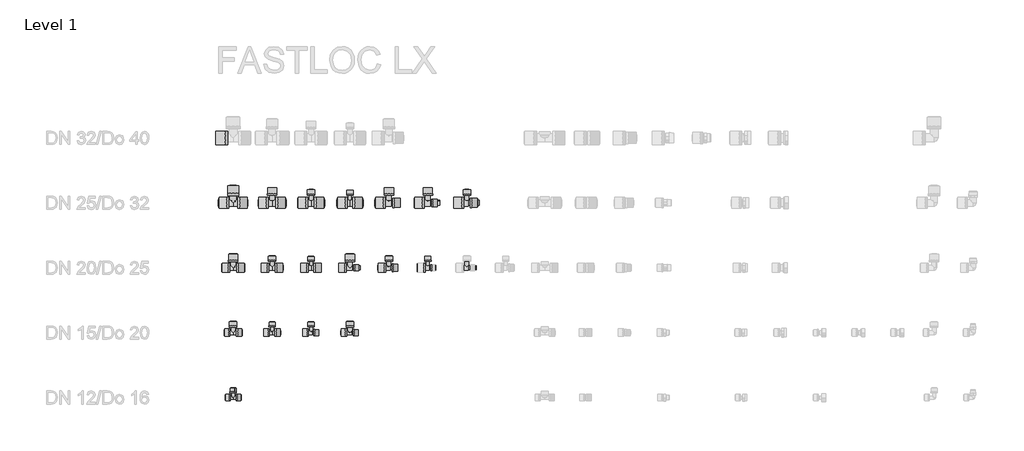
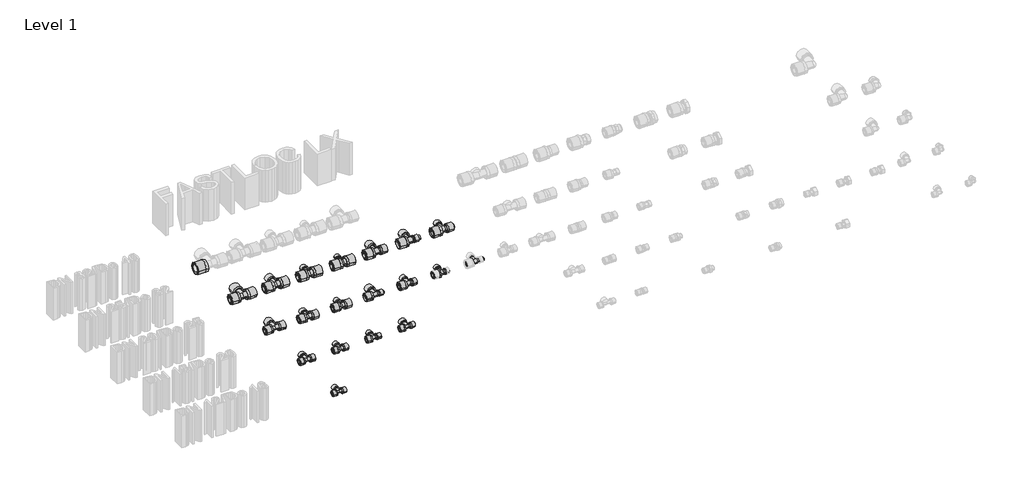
# One storey, part 1 of 4: 127 pipe fittings.
"""IFC4 building model written with IfcOpenShell, lengths in millimetres."""

from ifc_helpers import new_model, si_unit, origin, place, context, project, spatial, transform, mapped, element, save
from components import pipe_fitting_d1512616, pipe_fitting_53f43fdb, pipe_fitting_049613d0, pipe_fitting_c7c0347b, pipe_fitting_bcc3186d, pipe_fitting_b0737a23, pipe_fitting_5b3ed3f5, pipe_fitting_59d0f585, pipe_fitting_b80da8a0, pipe_fitting_4480fcef, pipe_fitting_790cff28, pipe_fitting_70687c7d, pipe_fitting_1d61267e, pipe_fitting_963efab6, pipe_fitting_73daba78, pipe_fitting_55165755, pipe_fitting_d6df5a86, pipe_fitting_67572bd9, pipe_fitting_897fe79f, pipe_fitting_291f5afb, pipe_fitting_dcf4181b, pipe_fitting_b03326a8, pipe_fitting_d24b7152, pipe_fitting_3e6fe312, sleeve_fsl_pvdf_957fc3e3, sleeve_fsl_pvdf_9ecdae78, sleeve_fsl_pvdf_b286e573, sleeve_fsl_pvdf_64652941, sleeve_fsl_pvdf_bb947688

model = new_model("IFC4")

# Units and contexts
model_context = context("Model", 3, world=origin())
ifc_project = project(units=[si_unit("LENGTHUNIT", "METRE", prefix="MILLI")], contexts=[model_context])

# Site, building, storey
site = spatial("IfcSite", under=ifc_project)
building = spatial("IfcBuilding", under=site)
storey = spatial("IfcBuildingStorey", under=building, Name="Level 1", Elevation=0.0)

# Pipe fittings
placement = place(None, origin())
pipe_fitting_shape = pipe_fitting_d1512616(model_context)
element("IfcPipeFitting", 1, ObjectType="FASTLOC_Sleeve outside : FSL S O DN1", at=placement, inside=storey, context=model_context, shape_type="MappedRepresentation", body=[
    mapped(pipe_fitting_shape, transform((0.0, 18.1, 0.0), x_axis=(0.0, 1.0, 0.0), y_axis=(-1.0, 0.0, 0.0), z_axis=(0.0, 0.0, 1.0))),
])
element("IfcPipeFitting", 2, ObjectType="FASTLOC_Sleeve outside : FSL S O DN1", at=placement, inside=storey, context=model_context, shape_type="MappedRepresentation", body=[
    mapped(pipe_fitting_shape, transform((-11.0, 0.0, 0.0), x_axis=(-1.0, 0.0, 0.0), y_axis=(0.0, -1.0, 0.0), z_axis=(0.0, 0.0, 1.0))),
])
element("IfcPipeFitting", 3, ObjectType="FASTLOC_Sleeve outside : FSL S O DN1", at=placement, inside=storey, context=model_context, shape_type="MappedRepresentation", body=[
    mapped(pipe_fitting_shape, transform((11.0, 0.0, 0.0), x_axis=(1.0, 0.0, 0.0), y_axis=(0.0, 1.0, 0.0), z_axis=(0.0, 0.0, 1.0))),
])
element("IfcPipeFitting", 4, ObjectType="FASTLOC_Sleeve outside : FSL S O DN1", at=placement, inside=storey, context=model_context, shape_type="MappedRepresentation", body=[
    mapped(pipe_fitting_shape, transform((150.0, 272.3, 0.0), x_axis=(0.0, 1.0, 0.0), y_axis=(-1.0, 0.0, 0.0), z_axis=(0.0, 0.0, 1.0))),
])
element("IfcPipeFitting", 5, ObjectType="FASTLOC_Sleeve outside : FSL S O DN1", at=placement, inside=storey, context=model_context, shape_type="MappedRepresentation", body=[
    mapped(pipe_fitting_shape, transform((300.0, 525.0, 0.0), x_axis=(0.0, 1.0, 0.0), y_axis=(-1.0, 0.0, 0.0), z_axis=(0.0, 0.0, 1.0))),
])
element("IfcPipeFitting", 6, ObjectType="FASTLOC_Sleeve outside : FSL S O DN1", at=placement, inside=storey, context=model_context, shape_type="MappedRepresentation", body=[
    mapped(pipe_fitting_shape, transform((450.0, 779.9, 0.0), x_axis=(0.0, 1.0, 0.0), y_axis=(-1.0, 0.0, 0.0), z_axis=(0.0, 0.0, 1.0))),
])
element("IfcPipeFitting", 7, ObjectType="FASTLOC_Sleeve outside : FSL S O DN1", at=placement, inside=storey, context=model_context, shape_type="MappedRepresentation", body=[
    mapped(pipe_fitting_shape, transform((463.0, 250.0, 0.0), x_axis=(1.0, 0.0, 0.0), y_axis=(0.0, 1.0, 0.0), z_axis=(0.0, 0.0, 1.0))),
])
element("IfcPipeFitting", 8, ObjectType="FASTLOC_Sleeve outside : FSL S O DN1", at=placement, inside=storey, context=model_context, shape_type="MappedRepresentation", body=[
    mapped(pipe_fitting_shape, transform((464.8, 500.0, 0.0), x_axis=(1.0, 0.0, 0.0), y_axis=(0.0, 1.0, 0.0), z_axis=(0.0, 0.0, 1.0))),
])
element("IfcPipeFitting", 9, ObjectType="FASTLOC_Sleeve outside : FSL S O DN1", at=placement, inside=storey, context=model_context, shape_type="MappedRepresentation", body=[
    mapped(pipe_fitting_shape, transform((300.0, 272.4, 0.0), x_axis=(0.0, 1.0, 0.0), y_axis=(-1.0, 0.0, 0.0), z_axis=(0.0, 0.0, 1.0))),
])
element("IfcPipeFitting", 10, ObjectType="FASTLOC_Sleeve outside : FSL S O DN1", at=placement, inside=storey, context=model_context, shape_type="MappedRepresentation", body=[
    mapped(pipe_fitting_shape, transform((311.1, 250.0, 0.0), x_axis=(1.0, 0.0, 0.0), y_axis=(0.0, 1.0, 0.0), z_axis=(0.0, 0.0, 1.0))),
])
element("IfcPipeFitting", 11, ObjectType="FASTLOC_Sleeve outside : FSL S O DN1", at=placement, inside=storey, context=model_context, shape_type="MappedRepresentation", body=[
    mapped(pipe_fitting_shape, transform((750.0, 525.1, 0.0), x_axis=(0.0, 1.0, 0.0), y_axis=(-1.0, 0.0, 0.0), z_axis=(0.0, 0.0, 1.0))),
])
element("IfcPipeFitting", 12, ObjectType="FASTLOC_Sleeve outside : FSL S O DN1", at=placement, inside=storey, context=model_context, shape_type="MappedRepresentation", body=[
    mapped(pipe_fitting_shape, transform((761.1, 500.0, 0.0), x_axis=(1.0, 0.0, 0.0), y_axis=(0.0, 1.0, 0.0), z_axis=(0.0, 0.0, 1.0))),
])
pipe_fitting_2_shape = pipe_fitting_53f43fdb(model_context)
element("IfcPipeFitting", 13, ObjectType="FASTLOC_Sleeve outside : FSL S O DN1", at=placement, inside=storey, context=model_context, shape_type="MappedRepresentation", body=[
    mapped(pipe_fitting_2_shape, transform((0.0, 271.7, 0.0), x_axis=(0.0, 1.0, 0.0), y_axis=(-1.0, 0.0, 0.0), z_axis=(0.0, 0.0, 1.0))),
])
element("IfcPipeFitting", 14, ObjectType="FASTLOC_Sleeve outside : FSL S O DN1", at=placement, inside=storey, context=model_context, shape_type="MappedRepresentation", body=[
    mapped(pipe_fitting_2_shape, transform((-12.5, 250.0, 0.0), x_axis=(-1.0, 0.0, 0.0), y_axis=(0.0, -1.0, 0.0), z_axis=(0.0, 0.0, 1.0))),
])
element("IfcPipeFitting", 15, ObjectType="FASTLOC_Sleeve outside : FSL S O DN1", at=placement, inside=storey, context=model_context, shape_type="MappedRepresentation", body=[
    mapped(pipe_fitting_2_shape, transform((12.5, 250.0, 0.0), x_axis=(1.0, 0.0, 0.0), y_axis=(0.0, 1.0, 0.0), z_axis=(0.0, 0.0, 1.0))),
])
element("IfcPipeFitting", 16, ObjectType="FASTLOC_Sleeve outside : FSL S O DN1", at=placement, inside=storey, context=model_context, shape_type="MappedRepresentation", body=[
    mapped(pipe_fitting_2_shape, transform((300.0, 779.3, 0.0), x_axis=(0.0, 1.0, 0.0), y_axis=(-1.0, 0.0, 0.0), z_axis=(0.0, 0.0, 1.0))),
])
element("IfcPipeFitting", 17, ObjectType="FASTLOC_Sleeve outside : FSL S O DN1", at=placement, inside=storey, context=model_context, shape_type="MappedRepresentation", body=[
    mapped(pipe_fitting_2_shape, transform((139.4, 250.0, 0.0), x_axis=(-1.0, 0.0, 0.0), y_axis=(0.0, -1.0, 0.0), z_axis=(0.0, 0.0, 1.0))),
])
element("IfcPipeFitting", 18, ObjectType="FASTLOC_Sleeve outside : FSL S O DN1", at=placement, inside=storey, context=model_context, shape_type="MappedRepresentation", body=[
    mapped(pipe_fitting_2_shape, transform((160.6, 250.0, 0.0), x_axis=(1.0, 0.0, 0.0), y_axis=(0.0, 1.0, 0.0), z_axis=(0.0, 0.0, 1.0))),
])
element("IfcPipeFitting", 19, ObjectType="FASTLOC_Sleeve outside : FSL S O DN1", at=placement, inside=storey, context=model_context, shape_type="MappedRepresentation", body=[
    mapped(pipe_fitting_2_shape, transform((150.0, 524.5, 0.0), x_axis=(0.0, 1.0, 0.0), y_axis=(-1.0, 0.0, 0.0), z_axis=(0.0, 0.0, 1.0))),
])
element("IfcPipeFitting", 20, ObjectType="FASTLOC_Sleeve outside : FSL S O DN1", at=placement, inside=storey, context=model_context, shape_type="MappedRepresentation", body=[
    mapped(pipe_fitting_2_shape, transform((450.0, 271.7, 0.0), x_axis=(0.0, 1.0, 0.0), y_axis=(-1.0, 0.0, 0.0), z_axis=(0.0, 0.0, 1.0))),
])
element("IfcPipeFitting", 21, ObjectType="FASTLOC_Sleeve outside : FSL S O DN1", at=placement, inside=storey, context=model_context, shape_type="MappedRepresentation", body=[
    mapped(pipe_fitting_2_shape, transform((437.3, 250.0, 0.0), x_axis=(-1.0, 0.0, 0.0), y_axis=(0.0, -1.0, 0.0), z_axis=(0.0, 0.0, 1.0))),
])
element("IfcPipeFitting", 22, ObjectType="FASTLOC_Sleeve outside : FSL S O DN1", at=placement, inside=storey, context=model_context, shape_type="MappedRepresentation", body=[
    mapped(pipe_fitting_2_shape, transform((600.0, 524.5, 0.0), x_axis=(0.0, 1.0, 0.0), y_axis=(-1.0, 0.0, 0.0), z_axis=(0.0, 0.0, 1.0))),
])
element("IfcPipeFitting", 23, ObjectType="FASTLOC_Sleeve outside : FSL S O DN1", at=placement, inside=storey, context=model_context, shape_type="MappedRepresentation", body=[
    mapped(pipe_fitting_2_shape, transform((612.7, 500.0, 0.0), x_axis=(1.0, 0.0, 0.0), y_axis=(0.0, 1.0, 0.0), z_axis=(0.0, 0.0, 1.0))),
])
element("IfcPipeFitting", 24, ObjectType="FASTLOC_Sleeve outside : FSL S O DN1", at=placement, inside=storey, context=model_context, shape_type="MappedRepresentation", body=[
    mapped(pipe_fitting_2_shape, transform((900.0, 779.3, 0.0), x_axis=(0.0, 1.0, 0.0), y_axis=(-1.0, 0.0, 0.0), z_axis=(0.0, 0.0, 1.0))),
])
element("IfcPipeFitting", 25, ObjectType="FASTLOC_Sleeve outside : FSL S O DN1", at=placement, inside=storey, context=model_context, shape_type="MappedRepresentation", body=[
    mapped(pipe_fitting_2_shape, transform((764.5, 750.0, 0.0), x_axis=(1.0, 0.0, 0.0), y_axis=(0.0, 1.0, 0.0), z_axis=(0.0, 0.0, 1.0))),
])
element("IfcPipeFitting", 26, ObjectType="FASTLOC_Sleeve outside : FSL S O DN1", at=placement, inside=storey, context=model_context, shape_type="MappedRepresentation", body=[
    mapped(pipe_fitting_2_shape, transform((289.2, 250.0, 0.0), x_axis=(-1.0, 0.0, 0.0), y_axis=(0.0, -1.0, 0.0), z_axis=(0.0, 0.0, 1.0))),
])
pipe_fitting_3_shape = pipe_fitting_049613d0(model_context)
element("IfcPipeFitting", 27, ObjectType="FASTLOC_Sleeve outside : FSL S O DN1", at=placement, inside=storey, context=model_context, shape_type="MappedRepresentation", body=[
    mapped(pipe_fitting_3_shape, transform((0.0, 523.5, 0.0), x_axis=(0.0, 1.0, 0.0), y_axis=(-1.0, 0.0, 0.0), z_axis=(0.0, 0.0, 1.0))),
])
element("IfcPipeFitting", 28, ObjectType="FASTLOC_Sleeve outside : FSL S O DN1", at=placement, inside=storey, context=model_context, shape_type="MappedRepresentation", body=[
    mapped(pipe_fitting_3_shape, transform((-13.9, 500.0, 0.0), x_axis=(-1.0, 0.0, 0.0), y_axis=(0.0, -1.0, 0.0), z_axis=(0.0, 0.0, 1.0))),
])
element("IfcPipeFitting", 29, ObjectType="FASTLOC_Sleeve outside : FSL S O DN1", at=placement, inside=storey, context=model_context, shape_type="MappedRepresentation", body=[
    mapped(pipe_fitting_3_shape, transform((13.9, 500.0, 0.0), x_axis=(1.0, 0.0, 0.0), y_axis=(0.0, 1.0, 0.0), z_axis=(0.0, 0.0, 1.0))),
])
element("IfcPipeFitting", 30, ObjectType="FASTLOC_Sleeve outside : FSL S O DN1", at=placement, inside=storey, context=model_context, shape_type="MappedRepresentation", body=[
    mapped(pipe_fitting_3_shape, transform((150.0, 778.4, 0.0), x_axis=(0.0, 1.0, 0.0), y_axis=(-1.0, 0.0, 0.0), z_axis=(0.0, 0.0, 1.0))),
])
element("IfcPipeFitting", 31, ObjectType="FASTLOC_Sleeve outside : FSL S O DN1", at=placement, inside=storey, context=model_context, shape_type="MappedRepresentation", body=[
    mapped(pipe_fitting_3_shape, transform((289.8, 500.0, 0.0), x_axis=(-1.0, 0.0, 0.0), y_axis=(0.0, -1.0, 0.0), z_axis=(0.0, 0.0, 1.0))),
])
element("IfcPipeFitting", 32, ObjectType="FASTLOC_Sleeve outside : FSL S O DN1", at=placement, inside=storey, context=model_context, shape_type="MappedRepresentation", body=[
    mapped(pipe_fitting_3_shape, transform((310.2, 500.0, 0.0), x_axis=(1.0, 0.0, 0.0), y_axis=(0.0, 1.0, 0.0), z_axis=(0.0, 0.0, 1.0))),
])
element("IfcPipeFitting", 33, ObjectType="FASTLOC_Sleeve outside : FSL S O DN1", at=placement, inside=storey, context=model_context, shape_type="MappedRepresentation", body=[
    mapped(pipe_fitting_3_shape, transform((137.9, 500.0, 0.0), x_axis=(-1.0, 0.0, 0.0), y_axis=(0.0, -1.0, 0.0), z_axis=(0.0, 0.0, 1.0))),
])
element("IfcPipeFitting", 34, ObjectType="FASTLOC_Sleeve outside : FSL S O DN1", at=placement, inside=storey, context=model_context, shape_type="MappedRepresentation", body=[
    mapped(pipe_fitting_3_shape, transform((162.1, 500.0, 0.0), x_axis=(1.0, 0.0, 0.0), y_axis=(0.0, 1.0, 0.0), z_axis=(0.0, 0.0, 1.0))),
])
element("IfcPipeFitting", 35, ObjectType="FASTLOC_Sleeve outside : FSL S O DN1", at=placement, inside=storey, context=model_context, shape_type="MappedRepresentation", body=[
    mapped(pipe_fitting_3_shape, transform((450.0, 523.5, 0.0), x_axis=(0.0, 1.0, 0.0), y_axis=(-1.0, 0.0, 0.0), z_axis=(0.0, 0.0, 1.0))),
])
element("IfcPipeFitting", 36, ObjectType="FASTLOC_Sleeve outside : FSL S O DN1", at=placement, inside=storey, context=model_context, shape_type="MappedRepresentation", body=[
    mapped(pipe_fitting_3_shape, transform((435.9, 500.0, 0.0), x_axis=(-1.0, 0.0, 0.0), y_axis=(0.0, -1.0, 0.0), z_axis=(0.0, 0.0, 1.0))),
])
element("IfcPipeFitting", 37, ObjectType="FASTLOC_Sleeve outside : FSL S O DN1", at=placement, inside=storey, context=model_context, shape_type="MappedRepresentation", body=[
    mapped(pipe_fitting_3_shape, transform((587.7, 500.0, 0.0), x_axis=(-1.0, 0.0, 0.0), y_axis=(0.0, -1.0, 0.0), z_axis=(0.0, 0.0, 1.0))),
])
element("IfcPipeFitting", 38, ObjectType="FASTLOC_Sleeve outside : FSL S O DN1", at=placement, inside=storey, context=model_context, shape_type="MappedRepresentation", body=[
    mapped(pipe_fitting_3_shape, transform((912.3, 750.0, 0.0), x_axis=(1.0, 0.0, 0.0), y_axis=(0.0, 1.0, 0.0), z_axis=(0.0, 0.0, 1.0))),
])
element("IfcPipeFitting", 39, ObjectType="FASTLOC_Sleeve outside : FSL S O DN1", at=placement, inside=storey, context=model_context, shape_type="MappedRepresentation", body=[
    mapped(pipe_fitting_3_shape, transform((750.0, 778.4, 0.0), x_axis=(0.0, 1.0, 0.0), y_axis=(-1.0, 0.0, 0.0), z_axis=(0.0, 0.0, 1.0))),
])
element("IfcPipeFitting", 40, ObjectType="FASTLOC_Sleeve outside : FSL S O DN1", at=placement, inside=storey, context=model_context, shape_type="MappedRepresentation", body=[
    mapped(pipe_fitting_3_shape, transform((600.0, 778.4, 0.0), x_axis=(0.0, 1.0, 0.0), y_axis=(-1.0, 0.0, 0.0), z_axis=(0.0, 0.0, 1.0))),
])
element("IfcPipeFitting", 41, ObjectType="FASTLOC_Sleeve outside : FSL S O DN1", at=placement, inside=storey, context=model_context, shape_type="MappedRepresentation", body=[
    mapped(pipe_fitting_3_shape, transform((614.1, 750.0, 0.0), x_axis=(1.0, 0.0, 0.0), y_axis=(0.0, 1.0, 0.0), z_axis=(0.0, 0.0, 1.0))),
])
element("IfcPipeFitting", 42, ObjectType="FASTLOC_Sleeve outside : FSL S O DN1", at=placement, inside=storey, context=model_context, shape_type="MappedRepresentation", body=[
    mapped(pipe_fitting_3_shape, transform((739.6, 500.0, 0.0), x_axis=(-1.0, 0.0, 0.0), y_axis=(0.0, -1.0, 0.0), z_axis=(0.0, 0.0, 1.0))),
])
pipe_fitting_4_shape = pipe_fitting_c7c0347b(model_context)
element("IfcPipeFitting", 43, ObjectType="FASTLOC_Sleeve outside : FSL S O DN1", at=placement, inside=storey, context=model_context, shape_type="MappedRepresentation", body=[
    mapped(pipe_fitting_4_shape, transform((0.0, 778.1, 0.0), x_axis=(0.0, 1.0, 0.0), y_axis=(-1.0, 0.0, 0.0), z_axis=(0.0, 0.0, 1.0))),
])
element("IfcPipeFitting", 44, ObjectType="FASTLOC_Sleeve outside : FSL S O DN1", at=placement, inside=storey, context=model_context, shape_type="MappedRepresentation", body=[
    mapped(pipe_fitting_4_shape, transform((-16.8, 750.0, 0.0), x_axis=(-1.0, 0.0, 0.0), y_axis=(0.0, -1.0, 0.0), z_axis=(0.0, 0.0, 1.0))),
])
element("IfcPipeFitting", 45, ObjectType="FASTLOC_Sleeve outside : FSL S O DN1", at=placement, inside=storey, context=model_context, shape_type="MappedRepresentation", body=[
    mapped(pipe_fitting_4_shape, transform((16.8, 750.0, 0.0), x_axis=(1.0, 0.0, 0.0), y_axis=(0.0, 1.0, 0.0), z_axis=(0.0, 0.0, 1.0))),
])
element("IfcPipeFitting", 46, ObjectType="FASTLOC_Sleeve outside : FSL S O DN1", at=placement, inside=storey, context=model_context, shape_type="MappedRepresentation", body=[
    mapped(pipe_fitting_4_shape, transform((287.8, 750.0, 0.0), x_axis=(-1.0, 0.0, 0.0), y_axis=(0.0, -1.0, 0.0), z_axis=(0.0, 0.0, 1.0))),
])
element("IfcPipeFitting", 47, ObjectType="FASTLOC_Sleeve outside : FSL S O DN1", at=placement, inside=storey, context=model_context, shape_type="MappedRepresentation", body=[
    mapped(pipe_fitting_4_shape, transform((312.2, 750.0, 0.0), x_axis=(1.0, 0.0, 0.0), y_axis=(0.0, 1.0, 0.0), z_axis=(0.0, 0.0, 1.0))),
])
element("IfcPipeFitting", 48, ObjectType="FASTLOC_Sleeve outside : FSL S O DN1", at=placement, inside=storey, context=model_context, shape_type="MappedRepresentation", body=[
    mapped(pipe_fitting_4_shape, transform((136.0, 750.0, 0.0), x_axis=(-1.0, 0.0, 0.0), y_axis=(0.0, -1.0, 0.0), z_axis=(0.0, 0.0, 1.0))),
])
element("IfcPipeFitting", 49, ObjectType="FASTLOC_Sleeve outside : FSL S O DN1", at=placement, inside=storey, context=model_context, shape_type="MappedRepresentation", body=[
    mapped(pipe_fitting_4_shape, transform((164.0, 750.0, 0.0), x_axis=(1.0, 0.0, 0.0), y_axis=(0.0, 1.0, 0.0), z_axis=(0.0, 0.0, 1.0))),
])
element("IfcPipeFitting", 50, ObjectType="FASTLOC_Sleeve outside : FSL S O DN1", at=placement, inside=storey, context=model_context, shape_type="MappedRepresentation", body=[
    mapped(pipe_fitting_4_shape, transform((439.7, 750.0, 0.0), x_axis=(-1.0, 0.0, 0.0), y_axis=(0.0, -1.0, 0.0), z_axis=(0.0, 0.0, 1.0))),
])
element("IfcPipeFitting", 51, ObjectType="FASTLOC_Sleeve outside : FSL S O DN1", at=placement, inside=storey, context=model_context, shape_type="MappedRepresentation", body=[
    mapped(pipe_fitting_4_shape, transform((460.3, 750.0, 0.0), x_axis=(1.0, 0.0, 0.0), y_axis=(0.0, 1.0, 0.0), z_axis=(0.0, 0.0, 1.0))),
])
element("IfcPipeFitting", 52, ObjectType="FASTLOC_Sleeve outside : FSL S O DN1", at=placement, inside=storey, context=model_context, shape_type="MappedRepresentation", body=[
    mapped(pipe_fitting_4_shape, transform((887.7, 750.0, 0.0), x_axis=(-1.0, 0.0, 0.0), y_axis=(0.0, -1.0, 0.0), z_axis=(0.0, 0.0, 1.0))),
])
element("IfcPipeFitting", 53, ObjectType="FASTLOC_Sleeve outside : FSL S O DN1", at=placement, inside=storey, context=model_context, shape_type="MappedRepresentation", body=[
    mapped(pipe_fitting_4_shape, transform((735.9, 750.0, 0.0), x_axis=(-1.0, 0.0, 0.0), y_axis=(0.0, -1.0, 0.0), z_axis=(0.0, 0.0, 1.0))),
])
element("IfcPipeFitting", 54, ObjectType="FASTLOC_Sleeve outside : FSL S O DN1", at=placement, inside=storey, context=model_context, shape_type="MappedRepresentation", body=[
    mapped(pipe_fitting_4_shape, transform((585.9, 750.0, 0.0), x_axis=(-1.0, 0.0, 0.0), y_axis=(0.0, -1.0, 0.0), z_axis=(0.0, 0.0, 1.0))),
])
pipe_fitting_5_shape = pipe_fitting_bcc3186d(model_context)
element("IfcPipeFitting", 55, ObjectType="FASTLOC_Sleeve outside : FSL S O DN1", at=placement, inside=storey, context=model_context, shape_type="MappedRepresentation", body=[
    mapped(pipe_fitting_5_shape, transform((-21.4, 1000.0, 0.0), x_axis=(-1.0, 0.0, 0.0), y_axis=(0.0, -1.0, 0.0), z_axis=(0.0, 0.0, 1.0))),
])
pipe_fitting_6_shape = pipe_fitting_b0737a23(model_context)
element("IfcPipeFitting", 56, ObjectType="FASTLOC_T-piece_LX : FSL T-Piece LX PL", at=placement, inside=storey, context=model_context, shape_type="MappedRepresentation", body=[
    mapped(pipe_fitting_6_shape, transform((0.0, 250.0, 0.0), x_axis=(1.0, 0.0, 0.0), y_axis=(0.0, 1.0, 0.0), z_axis=(0.0, 0.0, 1.0))),
])
pipe_fitting_7_shape = pipe_fitting_5b3ed3f5(model_context)
element("IfcPipeFitting", 57, ObjectType="FASTLOC_T-piece_LX : FSL T-Piece LX PL", at=placement, inside=storey, context=model_context, shape_type="MappedRepresentation", body=[
    mapped(pipe_fitting_7_shape, transform((0.0, 500.0, 0.0), x_axis=(1.0, 0.0, 0.0), y_axis=(0.0, 1.0, 0.0), z_axis=(0.0, 0.0, 1.0))),
])
pipe_fitting_8_shape = pipe_fitting_59d0f585(model_context)
element("IfcPipeFitting", 58, ObjectType="FASTLOC_T-piece_LX : FSL T-Piece LX PL", at=placement, inside=storey, context=model_context, shape_type="MappedRepresentation", body=[
    mapped(pipe_fitting_8_shape, transform((0.0, 750.0, 0.0), x_axis=(1.0, 0.0, 0.0), y_axis=(0.0, 1.0, 0.0), z_axis=(0.0, 0.0, 1.0))),
])
pipe_fitting_9_shape = pipe_fitting_b80da8a0(model_context)
element("IfcPipeFitting", 59, ObjectType="FASTLOC_T-piece_LX : FSL T-Piece LX PL", at=placement, inside=storey, context=model_context, shape_type="MappedRepresentation", body=[
    mapped(pipe_fitting_9_shape, transform((300.0, 750.0, 0.0), x_axis=(1.0, 0.0, 0.0), y_axis=(0.0, 1.0, 0.0), z_axis=(0.0, 0.0, 1.0))),
])
pipe_fitting_10_shape = pipe_fitting_4480fcef(model_context)
element("IfcPipeFitting", 60, ObjectType="FASTLOC_T-piece_LX : FSL T-Piece LX PL", at=placement, inside=storey, context=model_context, shape_type="MappedRepresentation", body=[
    mapped(pipe_fitting_10_shape, transform((150.0, 750.0, 0.0), x_axis=(1.0, 0.0, 0.0), y_axis=(0.0, 1.0, 0.0), z_axis=(0.0, 0.0, 1.0))),
])
pipe_fitting_11_shape = pipe_fitting_790cff28(model_context)
element("IfcPipeFitting", 61, ObjectType="FASTLOC_T-piece_LX : FSL T-Piece LX PL", at=placement, inside=storey, context=model_context, shape_type="MappedRepresentation", body=[
    mapped(pipe_fitting_11_shape, transform((150.0, 250.0, 0.0), x_axis=(1.0, 0.0, 0.0), y_axis=(0.0, 1.0, 0.0), z_axis=(0.0, 0.0, 1.0))),
])
pipe_fitting_12_shape = pipe_fitting_70687c7d(model_context)
element("IfcPipeFitting", 62, ObjectType="FASTLOC_T-piece_LX : FSL T-Piece LX PL", at=placement, inside=storey, context=model_context, shape_type="MappedRepresentation", body=[
    mapped(pipe_fitting_12_shape, transform((300.0, 500.0, 0.0), x_axis=(1.0, 0.0, 0.0), y_axis=(0.0, 1.0, 0.0), z_axis=(0.0, 0.0, 1.0))),
])
pipe_fitting_13_shape = pipe_fitting_1d61267e(model_context)
element("IfcPipeFitting", 63, ObjectType="FASTLOC_T-piece_LX : FSL T-Piece LX PL", at=placement, inside=storey, context=model_context, shape_type="MappedRepresentation", body=[
    mapped(pipe_fitting_13_shape, transform((150.0, 500.0, 0.0), x_axis=(1.0, 0.0, 0.0), y_axis=(0.0, 1.0, 0.0), z_axis=(0.0, 0.0, 1.0))),
])
pipe_fitting_14_shape = pipe_fitting_963efab6(model_context)
element("IfcPipeFitting", 64, ObjectType="FASTLOC_T-piece_LX : FSL T-Piece LX PL", at=placement, inside=storey, context=model_context, shape_type="MappedRepresentation", body=[
    mapped(pipe_fitting_14_shape, transform((450.0, 750.0, 0.0), x_axis=(1.0, 0.0, 0.0), y_axis=(0.0, 1.0, 0.0), z_axis=(0.0, 0.0, 1.0))),
])
pipe_fitting_15_shape = pipe_fitting_73daba78(model_context)
element("IfcPipeFitting", 65, ObjectType="FASTLOC_T-piece_LX : FSL T-Piece LX PL", at=placement, inside=storey, context=model_context, shape_type="MappedRepresentation", body=[
    mapped(pipe_fitting_15_shape, transform((450.0, 250.0, 0.0), x_axis=(1.0, 0.0, 0.0), y_axis=(0.0, 1.0, 0.0), z_axis=(0.0, 0.0, 1.0))),
])
pipe_fitting_16_shape = pipe_fitting_55165755(model_context)
element("IfcPipeFitting", 66, ObjectType="FASTLOC_T-piece_LX : FSL T-Piece LX PL", at=placement, inside=storey, context=model_context, shape_type="MappedRepresentation", body=[
    mapped(pipe_fitting_16_shape, transform((450.0, 500.0, 0.0), x_axis=(1.0, 0.0, 0.0), y_axis=(0.0, 1.0, 0.0), z_axis=(0.0, 0.0, 1.0))),
])
pipe_fitting_17_shape = pipe_fitting_d6df5a86(model_context)
element("IfcPipeFitting", 67, ObjectType="FASTLOC_T-piece_LX : FSL T-Piece LX PL", at=placement, inside=storey, context=model_context, shape_type="MappedRepresentation", body=[
    mapped(pipe_fitting_17_shape, transform((600.0, 500.0, 0.0), x_axis=(1.0, 0.0, 0.0), y_axis=(0.0, 1.0, 0.0), z_axis=(0.0, 0.0, 1.0))),
])
pipe_fitting_18_shape = pipe_fitting_67572bd9(model_context)
element("IfcPipeFitting", 68, ObjectType="FASTLOC_T-piece_LX : FSL T-Piece LX PL", at=placement, inside=storey, context=model_context, shape_type="MappedRepresentation", body=[
    mapped(pipe_fitting_18_shape, transform((900.0, 750.0, 0.0), x_axis=(1.0, 0.0, 0.0), y_axis=(0.0, 1.0, 0.0), z_axis=(0.0, 0.0, 1.0))),
])
pipe_fitting_19_shape = pipe_fitting_897fe79f(model_context)
element("IfcPipeFitting", 69, ObjectType="FASTLOC_T-piece_LX : FSL T-Piece LX PL", at=placement, inside=storey, context=model_context, shape_type="MappedRepresentation", body=[
    mapped(pipe_fitting_19_shape, transform((750.0, 750.0, 0.0), x_axis=(1.0, 0.0, 0.0), y_axis=(0.0, 1.0, 0.0), z_axis=(0.0, 0.0, 1.0))),
])
pipe_fitting_20_shape = pipe_fitting_291f5afb(model_context)
element("IfcPipeFitting", 70, ObjectType="FASTLOC_T-piece_LX : FSL T-Piece LX PL", at=placement, inside=storey, context=model_context, shape_type="MappedRepresentation", body=[
    mapped(pipe_fitting_20_shape, transform((600.0, 750.0, 0.0), x_axis=(1.0, 0.0, 0.0), y_axis=(0.0, 1.0, 0.0), z_axis=(0.0, 0.0, 1.0))),
])
pipe_fitting_21_shape = pipe_fitting_dcf4181b(model_context)
element("IfcPipeFitting", 71, ObjectType="FASTLOC_T-piece_LX : FSL T-Piece LX PL", at=placement, inside=storey, context=model_context, shape_type="MappedRepresentation", body=[
    mapped(pipe_fitting_21_shape, transform((300.0, 250.0, 0.0), x_axis=(1.0, 0.0, 0.0), y_axis=(0.0, 1.0, 0.0), z_axis=(0.0, 0.0, 1.0))),
])
pipe_fitting_22_shape = pipe_fitting_b03326a8(model_context)
element("IfcPipeFitting", 72, ObjectType="FASTLOC_T-piece_LX : FSL T-Piece LX PL", at=placement, inside=storey, context=model_context, shape_type="MappedRepresentation", body=[
    mapped(pipe_fitting_22_shape, transform((750.0, 500.0, 0.0), x_axis=(1.0, 0.0, 0.0), y_axis=(0.0, 1.0, 0.0), z_axis=(0.0, 0.0, 1.0))),
])
pipe_fitting_23_shape = pipe_fitting_d24b7152(model_context)
element("IfcPipeFitting", 73, ObjectType="FASTLOC_T-piece_LX : FSL T-Piece LX PL", at=placement, inside=storey, context=model_context, shape_type="MappedRepresentation", body=[
    mapped(pipe_fitting_23_shape, transform((900.0, 500.0, 0.0), x_axis=(1.0, 0.0, 0.0), y_axis=(0.0, 1.0, 0.0), z_axis=(0.0, 0.0, 1.0))),
])
pipe_fitting_24_shape = pipe_fitting_3e6fe312(model_context)
element("IfcPipeFitting", 74, ObjectType="FASTLOC_T-piece_LX : FSL T-Piece LX PL", at=placement, inside=storey, context=model_context, shape_type="MappedRepresentation", body=[
    mapped(pipe_fitting_24_shape, transform((0.0, 0.0, 0.0), x_axis=(1.0, 0.0, 0.0), y_axis=(0.0, 1.0, 0.0), z_axis=(0.0, 0.0, 1.0))),
])
sleeve_fsl_pvdf_shape = sleeve_fsl_pvdf_957fc3e3(model_context)
element("IfcPipeFitting", 75, ObjectType="Sleeve : FSL PVDF", at=placement, inside=storey, context=model_context, shape_type="MappedRepresentation", body=[
    mapped(sleeve_fsl_pvdf_shape, transform((0.0, 22.1, 0.0), x_axis=(0.0, 1.0, 0.0), y_axis=(-1.0, 0.0, 0.0), z_axis=(0.0, 0.0, 1.0))),
])
element("IfcPipeFitting", 76, ObjectType="Sleeve : FSL PVDF", at=placement, inside=storey, context=model_context, shape_type="MappedRepresentation", body=[
    mapped(sleeve_fsl_pvdf_shape, transform((-15.0, 0.0, 0.0), x_axis=(-1.0, 0.0, 0.0), y_axis=(0.0, -1.0, 0.0), z_axis=(0.0, 0.0, 1.0))),
])
element("IfcPipeFitting", 77, ObjectType="Sleeve : FSL PVDF", at=placement, inside=storey, context=model_context, shape_type="MappedRepresentation", body=[
    mapped(sleeve_fsl_pvdf_shape, transform((15.0, 0.0, 0.0), x_axis=(1.0, 0.0, 0.0), y_axis=(0.0, 1.0, 0.0), z_axis=(0.0, 0.0, 1.0))),
])
element("IfcPipeFitting", 78, ObjectType="Sleeve : FSL PVDF", at=placement, inside=storey, context=model_context, shape_type="MappedRepresentation", body=[
    mapped(sleeve_fsl_pvdf_shape, transform((150.0, 276.3, 0.0), x_axis=(0.0, 1.0, 0.0), y_axis=(-1.0, 0.0, 0.0), z_axis=(0.0, 0.0, 1.0))),
])
element("IfcPipeFitting", 79, ObjectType="Sleeve : FSL PVDF", at=placement, inside=storey, context=model_context, shape_type="MappedRepresentation", body=[
    mapped(sleeve_fsl_pvdf_shape, transform((300.0, 529.0, 0.0), x_axis=(0.0, 1.0, 0.0), y_axis=(-1.0, 0.0, 0.0), z_axis=(0.0, 0.0, 1.0))),
])
element("IfcPipeFitting", 80, ObjectType="Sleeve : FSL PVDF", at=placement, inside=storey, context=model_context, shape_type="MappedRepresentation", body=[
    mapped(sleeve_fsl_pvdf_shape, transform((450.0, 783.9, 0.0), x_axis=(0.0, 1.0, 0.0), y_axis=(-1.0, 0.0, 0.0), z_axis=(0.0, 0.0, 1.0))),
])
element("IfcPipeFitting", 81, ObjectType="Sleeve : FSL PVDF", at=placement, inside=storey, context=model_context, shape_type="MappedRepresentation", body=[
    mapped(sleeve_fsl_pvdf_shape, transform((467.0, 250.0, 0.0), x_axis=(1.0, 0.0, 0.0), y_axis=(0.0, 1.0, 0.0), z_axis=(0.0, 0.0, 1.0))),
])
element("IfcPipeFitting", 82, ObjectType="Sleeve : FSL PVDF", at=placement, inside=storey, context=model_context, shape_type="MappedRepresentation", body=[
    mapped(sleeve_fsl_pvdf_shape, transform((468.8, 500.0, 0.0), x_axis=(1.0, 0.0, 0.0), y_axis=(0.0, 1.0, 0.0), z_axis=(0.0, 0.0, 1.0))),
])
element("IfcPipeFitting", 83, ObjectType="Sleeve : FSL PVDF", at=placement, inside=storey, context=model_context, shape_type="MappedRepresentation", body=[
    mapped(sleeve_fsl_pvdf_shape, transform((300.0, 276.4, 0.0), x_axis=(0.0, 1.0, 0.0), y_axis=(-1.0, 0.0, 0.0), z_axis=(0.0, 0.0, 1.0))),
])
element("IfcPipeFitting", 84, ObjectType="Sleeve : FSL PVDF", at=placement, inside=storey, context=model_context, shape_type="MappedRepresentation", body=[
    mapped(sleeve_fsl_pvdf_shape, transform((315.1, 250.0, 0.0), x_axis=(1.0, 0.0, 0.0), y_axis=(0.0, 1.0, 0.0), z_axis=(0.0, 0.0, 1.0))),
])
element("IfcPipeFitting", 85, ObjectType="Sleeve : FSL PVDF", at=placement, inside=storey, context=model_context, shape_type="MappedRepresentation", body=[
    mapped(sleeve_fsl_pvdf_shape, transform((750.0, 529.1, 0.0), x_axis=(0.0, 1.0, 0.0), y_axis=(-1.0, 0.0, 0.0), z_axis=(0.0, 0.0, 1.0))),
])
sleeve_fsl_pvdf_2_shape = sleeve_fsl_pvdf_9ecdae78(model_context)
element("IfcPipeFitting", 86, ObjectType="Sleeve : FSL PVDF", at=placement, inside=storey, context=model_context, shape_type="MappedRepresentation", body=[
    mapped(sleeve_fsl_pvdf_2_shape, transform((0.0, 276.4, 0.0), x_axis=(0.0, 1.0, 0.0), y_axis=(-1.0, 0.0, 0.0), z_axis=(0.0, 0.0, 1.0))),
])
element("IfcPipeFitting", 87, ObjectType="Sleeve : FSL PVDF", at=placement, inside=storey, context=model_context, shape_type="MappedRepresentation", body=[
    mapped(sleeve_fsl_pvdf_2_shape, transform((-17.2, 250.0, 0.0), x_axis=(-1.0, 0.0, 0.0), y_axis=(0.0, -1.0, 0.0), z_axis=(0.0, 0.0, 1.0))),
])
element("IfcPipeFitting", 88, ObjectType="Sleeve : FSL PVDF", at=placement, inside=storey, context=model_context, shape_type="MappedRepresentation", body=[
    mapped(sleeve_fsl_pvdf_2_shape, transform((17.2, 250.0, 0.0), x_axis=(1.0, 0.0, 0.0), y_axis=(0.0, 1.0, 0.0), z_axis=(0.0, 0.0, 1.0))),
])
element("IfcPipeFitting", 89, ObjectType="Sleeve : FSL PVDF", at=placement, inside=storey, context=model_context, shape_type="MappedRepresentation", body=[
    mapped(sleeve_fsl_pvdf_2_shape, transform((300.0, 784.0, 0.0), x_axis=(0.0, 1.0, 0.0), y_axis=(-1.0, 0.0, 0.0), z_axis=(0.0, 0.0, 1.0))),
])
element("IfcPipeFitting", 90, ObjectType="Sleeve : FSL PVDF", at=placement, inside=storey, context=model_context, shape_type="MappedRepresentation", body=[
    mapped(sleeve_fsl_pvdf_2_shape, transform((134.7, 250.0, 0.0), x_axis=(-1.0, 0.0, 0.0), y_axis=(0.0, -1.0, 0.0), z_axis=(0.0, 0.0, 1.0))),
])
element("IfcPipeFitting", 91, ObjectType="Sleeve : FSL PVDF", at=placement, inside=storey, context=model_context, shape_type="MappedRepresentation", body=[
    mapped(sleeve_fsl_pvdf_2_shape, transform((165.3, 250.0, 0.0), x_axis=(1.0, 0.0, 0.0), y_axis=(0.0, 1.0, 0.0), z_axis=(0.0, 0.0, 1.0))),
])
element("IfcPipeFitting", 92, ObjectType="Sleeve : FSL PVDF", at=placement, inside=storey, context=model_context, shape_type="MappedRepresentation", body=[
    mapped(sleeve_fsl_pvdf_2_shape, transform((150.0, 529.2, 0.0), x_axis=(0.0, 1.0, 0.0), y_axis=(-1.0, 0.0, 0.0), z_axis=(0.0, 0.0, 1.0))),
])
element("IfcPipeFitting", 93, ObjectType="Sleeve : FSL PVDF", at=placement, inside=storey, context=model_context, shape_type="MappedRepresentation", body=[
    mapped(sleeve_fsl_pvdf_2_shape, transform((450.0, 276.4, 0.0), x_axis=(0.0, 1.0, 0.0), y_axis=(-1.0, 0.0, 0.0), z_axis=(0.0, 0.0, 1.0))),
])
element("IfcPipeFitting", 94, ObjectType="Sleeve : FSL PVDF", at=placement, inside=storey, context=model_context, shape_type="MappedRepresentation", body=[
    mapped(sleeve_fsl_pvdf_2_shape, transform((432.6, 250.0, 0.0), x_axis=(-1.0, 0.0, 0.0), y_axis=(0.0, -1.0, 0.0), z_axis=(0.0, 0.0, 1.0))),
])
element("IfcPipeFitting", 95, ObjectType="Sleeve : FSL PVDF", at=placement, inside=storey, context=model_context, shape_type="MappedRepresentation", body=[
    mapped(sleeve_fsl_pvdf_2_shape, transform((600.0, 529.2, 0.0), x_axis=(0.0, 1.0, 0.0), y_axis=(-1.0, 0.0, 0.0), z_axis=(0.0, 0.0, 1.0))),
])
element("IfcPipeFitting", 96, ObjectType="Sleeve : FSL PVDF", at=placement, inside=storey, context=model_context, shape_type="MappedRepresentation", body=[
    mapped(sleeve_fsl_pvdf_2_shape, transform((617.4, 500.0, 0.0), x_axis=(1.0, 0.0, 0.0), y_axis=(0.0, 1.0, 0.0), z_axis=(0.0, 0.0, 1.0))),
])
element("IfcPipeFitting", 97, ObjectType="Sleeve : FSL PVDF", at=placement, inside=storey, context=model_context, shape_type="MappedRepresentation", body=[
    mapped(sleeve_fsl_pvdf_2_shape, transform((900.0, 784.0, 0.0), x_axis=(0.0, 1.0, 0.0), y_axis=(-1.0, 0.0, 0.0), z_axis=(0.0, 0.0, 1.0))),
])
element("IfcPipeFitting", 98, ObjectType="Sleeve : FSL PVDF", at=placement, inside=storey, context=model_context, shape_type="MappedRepresentation", body=[
    mapped(sleeve_fsl_pvdf_2_shape, transform((769.2, 750.0, 0.0), x_axis=(1.0, 0.0, 0.0), y_axis=(0.0, 1.0, 0.0), z_axis=(0.0, 0.0, 1.0))),
])
element("IfcPipeFitting", 99, ObjectType="Sleeve : FSL PVDF", at=placement, inside=storey, context=model_context, shape_type="MappedRepresentation", body=[
    mapped(sleeve_fsl_pvdf_2_shape, transform((284.5, 250.0, 0.0), x_axis=(-1.0, 0.0, 0.0), y_axis=(0.0, -1.0, 0.0), z_axis=(0.0, 0.0, 1.0))),
])
sleeve_fsl_pvdf_3_shape = sleeve_fsl_pvdf_b286e573(model_context)
element("IfcPipeFitting", 100, ObjectType="Sleeve : FSL PVDF", at=placement, inside=storey, context=model_context, shape_type="MappedRepresentation", body=[
    mapped(sleeve_fsl_pvdf_3_shape, transform((0.0, 529.5, 0.0), x_axis=(0.0, 1.0, 0.0), y_axis=(-1.0, 0.0, 0.0), z_axis=(0.0, 0.0, 1.0))),
])
element("IfcPipeFitting", 101, ObjectType="Sleeve : FSL PVDF", at=placement, inside=storey, context=model_context, shape_type="MappedRepresentation", body=[
    mapped(sleeve_fsl_pvdf_3_shape, transform((-19.9, 500.0, 0.0), x_axis=(-1.0, 0.0, 0.0), y_axis=(0.0, -1.0, 0.0), z_axis=(0.0, 0.0, 1.0))),
])
element("IfcPipeFitting", 102, ObjectType="Sleeve : FSL PVDF", at=placement, inside=storey, context=model_context, shape_type="MappedRepresentation", body=[
    mapped(sleeve_fsl_pvdf_3_shape, transform((19.9, 500.0, 0.0), x_axis=(1.0, 0.0, 0.0), y_axis=(0.0, 1.0, 0.0), z_axis=(0.0, 0.0, 1.0))),
])
element("IfcPipeFitting", 103, ObjectType="Sleeve : FSL PVDF", at=placement, inside=storey, context=model_context, shape_type="MappedRepresentation", body=[
    mapped(sleeve_fsl_pvdf_3_shape, transform((150.0, 784.4, 0.0), x_axis=(0.0, 1.0, 0.0), y_axis=(-1.0, 0.0, 0.0), z_axis=(0.0, 0.0, 1.0))),
])
element("IfcPipeFitting", 104, ObjectType="Sleeve : FSL PVDF", at=placement, inside=storey, context=model_context, shape_type="MappedRepresentation", body=[
    mapped(sleeve_fsl_pvdf_3_shape, transform((283.8, 500.0, 0.0), x_axis=(-1.0, 0.0, 0.0), y_axis=(0.0, -1.0, 0.0), z_axis=(0.0, 0.0, 1.0))),
])
element("IfcPipeFitting", 105, ObjectType="Sleeve : FSL PVDF", at=placement, inside=storey, context=model_context, shape_type="MappedRepresentation", body=[
    mapped(sleeve_fsl_pvdf_3_shape, transform((316.2, 500.0, 0.0), x_axis=(1.0, 0.0, 0.0), y_axis=(0.0, 1.0, 0.0), z_axis=(0.0, 0.0, 1.0))),
])
element("IfcPipeFitting", 106, ObjectType="Sleeve : FSL PVDF", at=placement, inside=storey, context=model_context, shape_type="MappedRepresentation", body=[
    mapped(sleeve_fsl_pvdf_3_shape, transform((131.9, 500.0, 0.0), x_axis=(-1.0, 0.0, 0.0), y_axis=(0.0, -1.0, 0.0), z_axis=(0.0, 0.0, 1.0))),
])
element("IfcPipeFitting", 107, ObjectType="Sleeve : FSL PVDF", at=placement, inside=storey, context=model_context, shape_type="MappedRepresentation", body=[
    mapped(sleeve_fsl_pvdf_3_shape, transform((168.1, 500.0, 0.0), x_axis=(1.0, 0.0, 0.0), y_axis=(0.0, 1.0, 0.0), z_axis=(0.0, 0.0, 1.0))),
])
element("IfcPipeFitting", 108, ObjectType="Sleeve : FSL PVDF", at=placement, inside=storey, context=model_context, shape_type="MappedRepresentation", body=[
    mapped(sleeve_fsl_pvdf_3_shape, transform((450.0, 529.5, 0.0), x_axis=(0.0, 1.0, 0.0), y_axis=(-1.0, 0.0, 0.0), z_axis=(0.0, 0.0, 1.0))),
])
element("IfcPipeFitting", 109, ObjectType="Sleeve : FSL PVDF", at=placement, inside=storey, context=model_context, shape_type="MappedRepresentation", body=[
    mapped(sleeve_fsl_pvdf_3_shape, transform((429.9, 500.0, 0.0), x_axis=(-1.0, 0.0, 0.0), y_axis=(0.0, -1.0, 0.0), z_axis=(0.0, 0.0, 1.0))),
])
element("IfcPipeFitting", 110, ObjectType="Sleeve : FSL PVDF", at=placement, inside=storey, context=model_context, shape_type="MappedRepresentation", body=[
    mapped(sleeve_fsl_pvdf_3_shape, transform((581.7, 500.0, 0.0), x_axis=(-1.0, 0.0, 0.0), y_axis=(0.0, -1.0, 0.0), z_axis=(0.0, 0.0, 1.0))),
])
element("IfcPipeFitting", 111, ObjectType="Sleeve : FSL PVDF", at=placement, inside=storey, context=model_context, shape_type="MappedRepresentation", body=[
    mapped(sleeve_fsl_pvdf_3_shape, transform((918.3, 750.0, 0.0), x_axis=(1.0, 0.0, 0.0), y_axis=(0.0, 1.0, 0.0), z_axis=(0.0, 0.0, 1.0))),
])
element("IfcPipeFitting", 112, ObjectType="Sleeve : FSL PVDF", at=placement, inside=storey, context=model_context, shape_type="MappedRepresentation", body=[
    mapped(sleeve_fsl_pvdf_3_shape, transform((750.0, 784.4, 0.0), x_axis=(0.0, 1.0, 0.0), y_axis=(-1.0, 0.0, 0.0), z_axis=(0.0, 0.0, 1.0))),
])
element("IfcPipeFitting", 113, ObjectType="Sleeve : FSL PVDF", at=placement, inside=storey, context=model_context, shape_type="MappedRepresentation", body=[
    mapped(sleeve_fsl_pvdf_3_shape, transform((600.0, 784.4, 0.0), x_axis=(0.0, 1.0, 0.0), y_axis=(-1.0, 0.0, 0.0), z_axis=(0.0, 0.0, 1.0))),
])
element("IfcPipeFitting", 114, ObjectType="Sleeve : FSL PVDF", at=placement, inside=storey, context=model_context, shape_type="MappedRepresentation", body=[
    mapped(sleeve_fsl_pvdf_3_shape, transform((620.1, 750.0, 0.0), x_axis=(1.0, 0.0, 0.0), y_axis=(0.0, 1.0, 0.0), z_axis=(0.0, 0.0, 1.0))),
])
sleeve_fsl_pvdf_4_shape = sleeve_fsl_pvdf_64652941(model_context)
element("IfcPipeFitting", 115, ObjectType="Sleeve : FSL PVDF", at=placement, inside=storey, context=model_context, shape_type="MappedRepresentation", body=[
    mapped(sleeve_fsl_pvdf_4_shape, transform((0.0, 786.1, 0.0), x_axis=(0.0, 1.0, 0.0), y_axis=(-1.0, 0.0, 0.0), z_axis=(0.0, 0.0, 1.0))),
])
element("IfcPipeFitting", 116, ObjectType="Sleeve : FSL PVDF", at=placement, inside=storey, context=model_context, shape_type="MappedRepresentation", body=[
    mapped(sleeve_fsl_pvdf_4_shape, transform((-24.8, 750.0, 0.0), x_axis=(-1.0, 0.0, 0.0), y_axis=(0.0, -1.0, 0.0), z_axis=(0.0, 0.0, 1.0))),
])
element("IfcPipeFitting", 117, ObjectType="Sleeve : FSL PVDF", at=placement, inside=storey, context=model_context, shape_type="MappedRepresentation", body=[
    mapped(sleeve_fsl_pvdf_4_shape, transform((24.8, 750.0, 0.0), x_axis=(1.0, 0.0, 0.0), y_axis=(0.0, 1.0, 0.0), z_axis=(0.0, 0.0, 1.0))),
])
element("IfcPipeFitting", 118, ObjectType="Sleeve : FSL PVDF", at=placement, inside=storey, context=model_context, shape_type="MappedRepresentation", body=[
    mapped(sleeve_fsl_pvdf_4_shape, transform((279.8, 750.0, 0.0), x_axis=(-1.0, 0.0, 0.0), y_axis=(0.0, -1.0, 0.0), z_axis=(0.0, 0.0, 1.0))),
])
element("IfcPipeFitting", 119, ObjectType="Sleeve : FSL PVDF", at=placement, inside=storey, context=model_context, shape_type="MappedRepresentation", body=[
    mapped(sleeve_fsl_pvdf_4_shape, transform((320.2, 750.0, 0.0), x_axis=(1.0, 0.0, 0.0), y_axis=(0.0, 1.0, 0.0), z_axis=(0.0, 0.0, 1.0))),
])
element("IfcPipeFitting", 120, ObjectType="Sleeve : FSL PVDF", at=placement, inside=storey, context=model_context, shape_type="MappedRepresentation", body=[
    mapped(sleeve_fsl_pvdf_4_shape, transform((128.0, 750.0, 0.0), x_axis=(-1.0, 0.0, 0.0), y_axis=(0.0, -1.0, 0.0), z_axis=(0.0, 0.0, 1.0))),
])
element("IfcPipeFitting", 121, ObjectType="Sleeve : FSL PVDF", at=placement, inside=storey, context=model_context, shape_type="MappedRepresentation", body=[
    mapped(sleeve_fsl_pvdf_4_shape, transform((172.0, 750.0, 0.0), x_axis=(1.0, 0.0, 0.0), y_axis=(0.0, 1.0, 0.0), z_axis=(0.0, 0.0, 1.0))),
])
element("IfcPipeFitting", 122, ObjectType="Sleeve : FSL PVDF", at=placement, inside=storey, context=model_context, shape_type="MappedRepresentation", body=[
    mapped(sleeve_fsl_pvdf_4_shape, transform((431.7, 750.0, 0.0), x_axis=(-1.0, 0.0, 0.0), y_axis=(0.0, -1.0, 0.0), z_axis=(0.0, 0.0, 1.0))),
])
element("IfcPipeFitting", 123, ObjectType="Sleeve : FSL PVDF", at=placement, inside=storey, context=model_context, shape_type="MappedRepresentation", body=[
    mapped(sleeve_fsl_pvdf_4_shape, transform((468.3, 750.0, 0.0), x_axis=(1.0, 0.0, 0.0), y_axis=(0.0, 1.0, 0.0), z_axis=(0.0, 0.0, 1.0))),
])
element("IfcPipeFitting", 124, ObjectType="Sleeve : FSL PVDF", at=placement, inside=storey, context=model_context, shape_type="MappedRepresentation", body=[
    mapped(sleeve_fsl_pvdf_4_shape, transform((879.7, 750.0, 0.0), x_axis=(-1.0, 0.0, 0.0), y_axis=(0.0, -1.0, 0.0), z_axis=(0.0, 0.0, 1.0))),
])
element("IfcPipeFitting", 125, ObjectType="Sleeve : FSL PVDF", at=placement, inside=storey, context=model_context, shape_type="MappedRepresentation", body=[
    mapped(sleeve_fsl_pvdf_4_shape, transform((727.9, 750.0, 0.0), x_axis=(-1.0, 0.0, 0.0), y_axis=(0.0, -1.0, 0.0), z_axis=(0.0, 0.0, 1.0))),
])
element("IfcPipeFitting", 126, ObjectType="Sleeve : FSL PVDF", at=placement, inside=storey, context=model_context, shape_type="MappedRepresentation", body=[
    mapped(sleeve_fsl_pvdf_4_shape, transform((577.9, 750.0, 0.0), x_axis=(-1.0, 0.0, 0.0), y_axis=(0.0, -1.0, 0.0), z_axis=(0.0, 0.0, 1.0))),
])
sleeve_fsl_pvdf_5_shape = sleeve_fsl_pvdf_bb947688(model_context)
element("IfcPipeFitting", 127, ObjectType="Sleeve : FSL PVDF", at=placement, inside=storey, context=model_context, shape_type="MappedRepresentation", body=[
    mapped(sleeve_fsl_pvdf_5_shape, transform((-31.4, 1000.0, 0.0), x_axis=(-1.0, 0.0, 0.0), y_axis=(0.0, -1.0, 0.0), z_axis=(0.0, 0.0, 1.0))),
])

save(model, "model.ifc")
